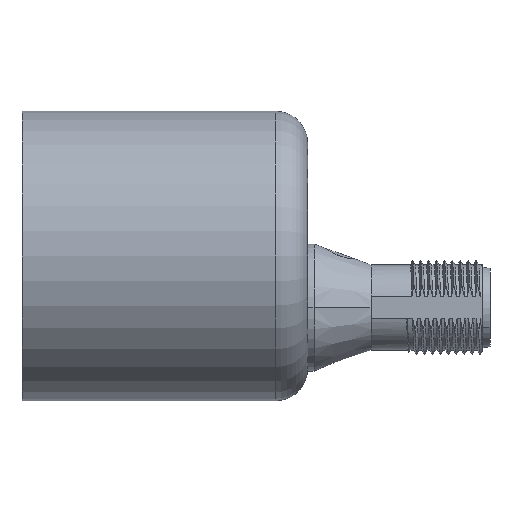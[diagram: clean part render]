
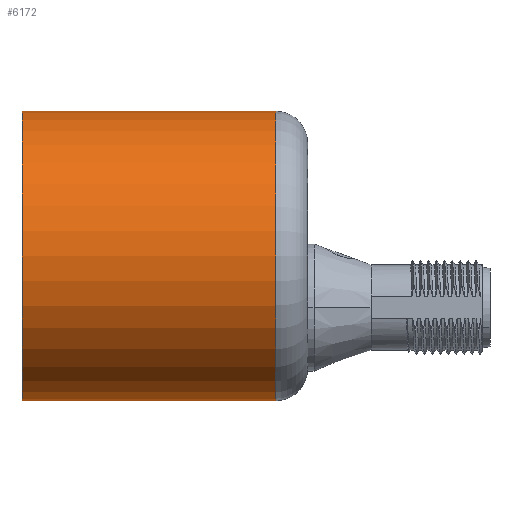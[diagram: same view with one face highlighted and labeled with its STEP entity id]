
A CAD part, left-side view. The second image highlights one B-rep face of the part: STEP entity #6172.
In plain terms, the highlighted cylindrical face has radius 18.25 mm (diameter 36.5 mm), a partial arc.
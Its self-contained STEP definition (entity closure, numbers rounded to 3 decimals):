
#60 = VERTEX_POINT ( 'NONE', #5348 ) ;
#65 = VERTEX_POINT ( 'NONE', #5342 ) ;
#98 = EDGE_CURVE ( 'NONE', #60, #6078, #5630, .T. ) ;
#2950 = CARTESIAN_POINT ( 'NONE',  ( 0., 36., -18.25 ) ) ;
#2953 = DIRECTION ( 'NONE',  ( 0., 1., 0. ) ) ;
#2954 = VECTOR ( 'NONE', #2953, 1000. ) ;
#2956 = CARTESIAN_POINT ( 'NONE',  ( 0., 45.075, -18.25 ) ) ;
#2957 = LINE ( 'NONE', #2956, #2954 ) ;
#3231 = CARTESIAN_POINT ( 'NONE',  ( 0., 36., 18.25 ) ) ;
#3385 = DIRECTION ( 'NONE',  ( 0., -1., 0. ) ) ;
#3387 = CARTESIAN_POINT ( 'NONE',  ( 0., 36., 0. ) ) ;
#3389 = AXIS2_PLACEMENT_3D ( 'NONE', #3387, #3385, #3625 ) ;
#3390 = CIRCLE ( 'NONE', #3389, 18.25 ) ;
#3395 = DIRECTION ( 'NONE',  ( 0., 0., 1. ) ) ;
#3397 = DIRECTION ( 'NONE',  ( 0., 1., 0. ) ) ;
#3399 = AXIS2_PLACEMENT_3D ( 'NONE', #3413, #3397, #3395 ) ;
#3401 = CIRCLE ( 'NONE', #3399, 18.25 ) ;
#3407 = DIRECTION ( 'NONE',  ( 0., 0., 1. ) ) ;
#3408 = DIRECTION ( 'NONE',  ( 0., 1., 0. ) ) ;
#3410 = CARTESIAN_POINT ( 'NONE',  ( 0., 45.075, 0. ) ) ;
#3412 = AXIS2_PLACEMENT_3D ( 'NONE', #3410, #3408, #3407 ) ;
#3413 = CARTESIAN_POINT ( 'NONE',  ( 0., 4., 0. ) ) ;
#3417 = CYLINDRICAL_SURFACE ( 'NONE', #3412, 18.25 ) ;
#3426 = FACE_OUTER_BOUND ( 'NONE', #6100, .T. ) ;
#3625 = DIRECTION ( 'NONE',  ( 0., 0., -1. ) ) ;
#5342 = CARTESIAN_POINT ( 'NONE',  ( 0., 4., -18.25 ) ) ;
#5348 = CARTESIAN_POINT ( 'NONE',  ( 0., 4., 18.25 ) ) ;
#5627 = DIRECTION ( 'NONE',  ( 0., 1., 0. ) ) ;
#5628 = VECTOR ( 'NONE', #5627, 1000. ) ;
#5629 = CARTESIAN_POINT ( 'NONE',  ( 0., 45.075, 18.25 ) ) ;
#5630 = LINE ( 'NONE', #5629, #5628 ) ;
#6078 = VERTEX_POINT ( 'NONE', #3231 ) ;
#6100 = EDGE_LOOP ( 'NONE', ( #6173, #6174, #6176, #6177 ) ) ;
#6132 = EDGE_CURVE ( 'NONE', #65, #6133, #2957, .T. ) ;
#6133 = VERTEX_POINT ( 'NONE', #2950 ) ;
#6172 = ADVANCED_FACE ( 'NONE', ( #3426 ), #3417, .T. ) ;
#6173 = ORIENTED_EDGE ( 'NONE', *, *, #6132, .F. ) ;
#6174 = ORIENTED_EDGE ( 'NONE', *, *, #6175, .T. ) ;
#6175 = EDGE_CURVE ( 'NONE', #65, #60, #3401, .T. ) ;
#6176 = ORIENTED_EDGE ( 'NONE', *, *, #98, .T. ) ;
#6177 = ORIENTED_EDGE ( 'NONE', *, *, #6178, .T. ) ;
#6178 = EDGE_CURVE ( 'NONE', #6078, #6133, #3390, .T. ) ;
